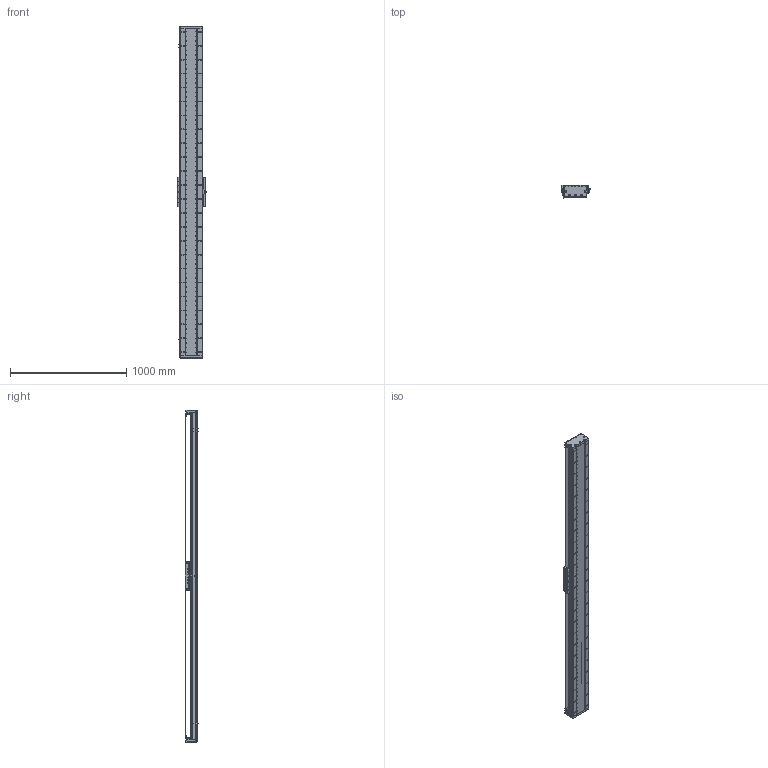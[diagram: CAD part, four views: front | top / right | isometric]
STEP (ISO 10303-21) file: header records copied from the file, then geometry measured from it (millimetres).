
FILE_DESCRIPTION (( 'STEP AP203' ), '1' );
FILE_NAME ('DA-C195-C3-T2520-C010-0.2 眻盄萇儂.STEP', '2025-08-15T01:31:47', ( '' ), ( '' ), 'SwSTEP 2.0', 'SolidWorks 2019', '' );
FILE_SCHEMA (( 'CONFIG_CONTROL_DESIGN' ));
Length unit declared in the file: millimetre
Products named in the file (15): DA195詩湍嶺輸; DA-C195-GD-DB-H-00 傷啣; DA195詩湍郪璃; 葩璃 DA95-GT-T-00; LMT黍杅芛; DA195詩湍菜輸; MS200 棠掑喜S315-T240; IU-CU195-L-00 菁釱(L2820); DA165-GYP-00 光电感应片(默认); CU195-C3賑輸-俋楷; DA195詩湍裔啣; DA-C195-C3-T2520-C010-0.2 眻盄萇儂; DA95-HXJ-00 遣喳砎蝶; PM-T45ㄗ侂狟ㄘ; IU-CU195-L 菁釱絳寢
Assembly tree (29 placements, depth 3):
  DA-C195-C3-T2520-C010-0.2 眻盄萇儂
    DA195詩湍郪璃
      DA195詩湍菜輸  x2
      DA195詩湍裔啣
      DA195詩湍嶺輸  x2
      DA95-HXJ-00 遣喳砎蝶  x8
      DA-C195-GD-DB-H-00 傷啣  x2
    IU-CU195-L 菁釱絳寢
      IU-CU195-L-00 菁釱(L2820)
      葩璃 DA95-GT-T-00  x4
    LMT黍杅芛
    MS200 棠掑喜S315-T240
    PM-T45ㄗ侂狟ㄘ  x3
    DA165-GYP-00 光电感应片(默认)
    CU195-C3賑輸-俋楷
Bounding box: 248 x 115.45 x 2860 mm (x, y, z)
Volume: 16634905.6 mm3; surface area: 4902737.3 mm2
Topology: 86 solids, 118 shells, 4436 faces, 12591 edges, 7953 vertices
Faces by surface type: cylinder 2466, plane 1368, cone 514, torus 52, sphere 36
Entity records: 144933 total; most frequent: CARTESIAN_POINT 39944, ORIENTED_EDGE 22098, DIRECTION 21046, EDGE_CURVE 11049, AXIS2_PLACEMENT_3D 7909, VERTEX_POINT 7155, VECTOR 5228, LINE 5228
